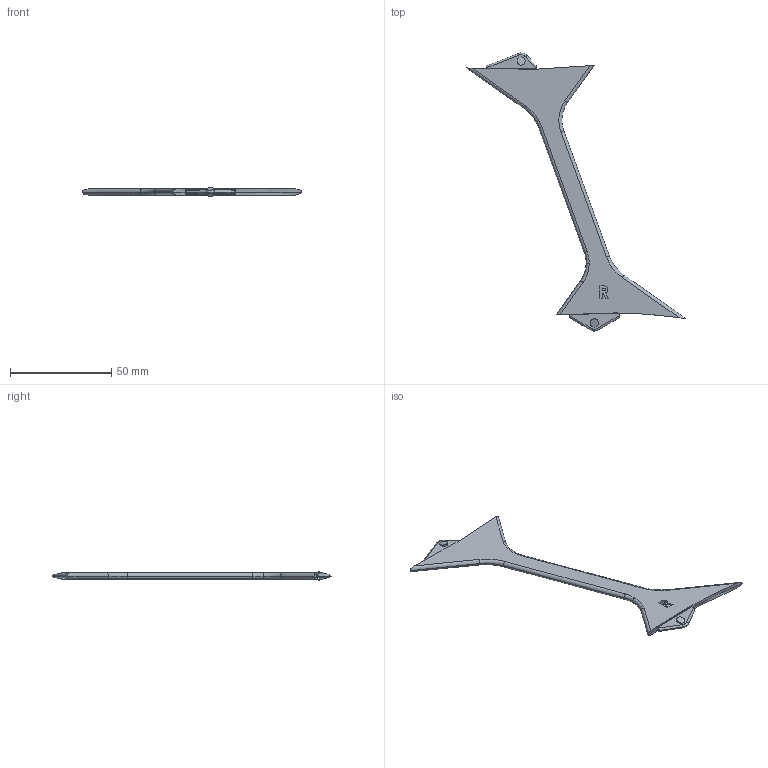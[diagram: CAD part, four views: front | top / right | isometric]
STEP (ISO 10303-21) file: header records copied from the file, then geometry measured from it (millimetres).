
FILE_DESCRIPTION (( 'STEP AP203' ), '1' );
FILE_NAME ('Mirror06-12-08-00 Interplane strut.STEP', '2019-02-25T09:19:20', ( '' ), ( '' ), 'SwSTEP 2.0', 'SolidWorks 2014', '' );
FILE_SCHEMA (( 'CONFIG_CONTROL_DESIGN' ));
Length unit declared in the file: millimetre
Products named in the file (1): Mirror06-12-08-00 Interplane strut
Bounding box: 108.02 x 137.21 x 4.2 mm (x, y, z)
Volume: 7919.6 mm3; surface area: 6615.7 mm2
Topology: 1 solids, 1 shells, 95 faces, 236 edges, 150 vertices
Faces by surface type: cylinder 38, plane 28, bspline 15, torus 14
Entity records: 3592 total; most frequent: CARTESIAN_POINT 1446, ORIENTED_EDGE 472, DIRECTION 379, EDGE_CURVE 236, VERTEX_POINT 150, AXIS2_PLACEMENT_3D 144, EDGE_LOOP 102, FACE_OUTER_BOUND 95
